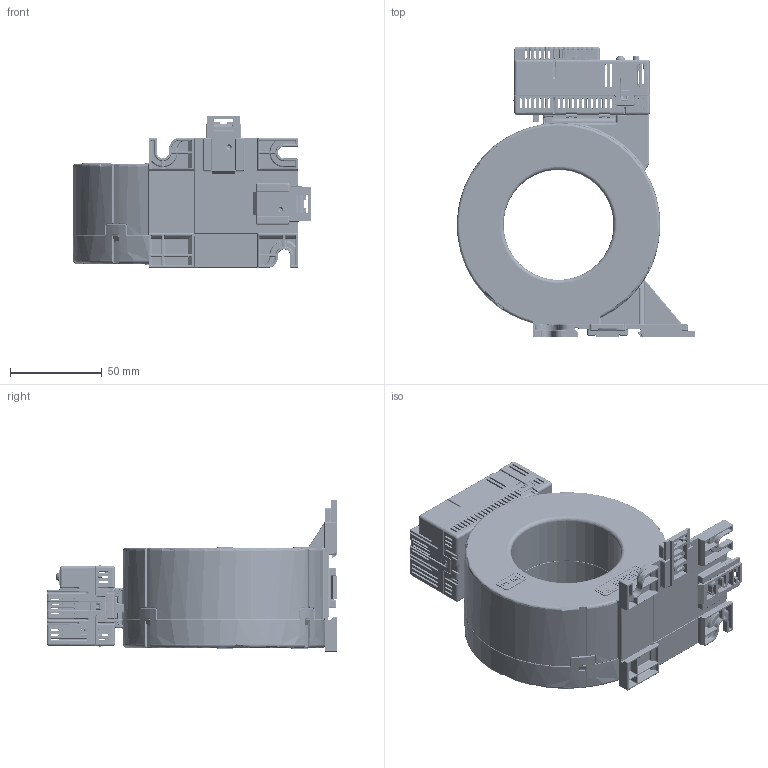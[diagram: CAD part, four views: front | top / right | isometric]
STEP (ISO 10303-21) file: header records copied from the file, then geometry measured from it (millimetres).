
FILE_DESCRIPTION (( 'STEP AP214' ), '1' );
FILE_NAME ('xRCxx30x-CTBC60x.STEP', '2019-04-11T14:16:14', ( 'Administrator' ), ( '' ), 'SwSTEP 2.0', 'SolidWorks 2019', '' );
FILE_SCHEMA (( 'AUTOMOTIVE_DESIGN' ));
Length unit declared in the file: millimetre
Products named in the file (1): xRCxx30x-CTBC60x
Bounding box: 129.7 x 158.4 x 82.4 mm (x, y, z)
Volume: 148227.1 mm3; surface area: 158631.8 mm2
Topology: 10 solids, 11 shells, 10730 faces, 26953 edges, 16052 vertices
Faces by surface type: plane 3208, cylinder 3203, bspline 2427, torus 1028, cone 447, sphere 417
Entity records: 503856 total; most frequent: CARTESIAN_POINT 149455, ORIENTED_EDGE 53088, DIRECTION 45054, EDGE_CURVE 26544, AXIS2_PLACEMENT_3D 16181, VERTEX_POINT 16035, VECTOR 12692, LINE 12692
